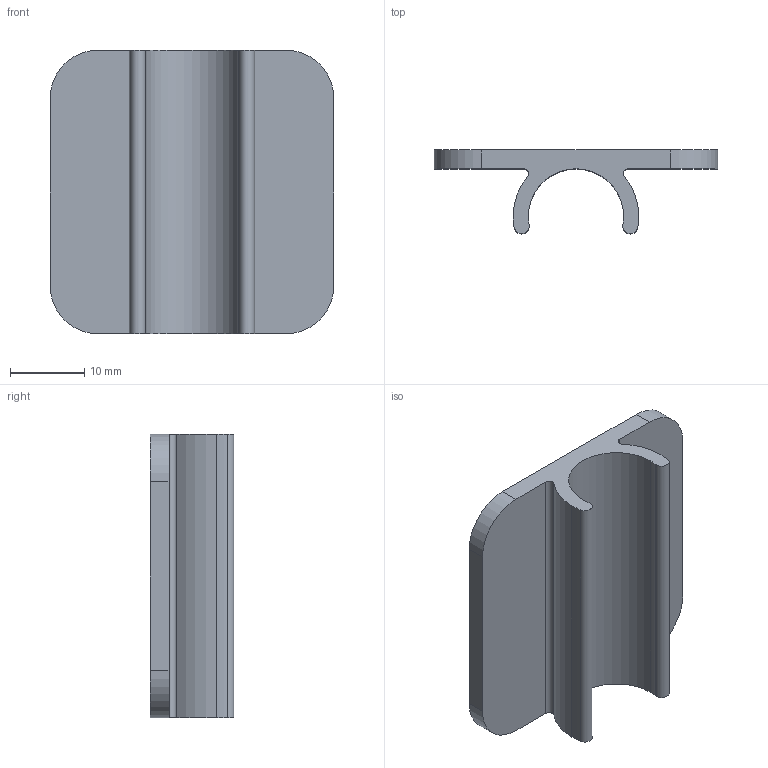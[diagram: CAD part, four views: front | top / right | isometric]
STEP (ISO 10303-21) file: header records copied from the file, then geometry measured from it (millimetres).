
FILE_DESCRIPTION (( 'STEP AP214' ), '1' );
FILE_NAME ('DRP-002-0102-00.STEP', '2010-08-12T16:04:20', ( '' ), ( '' ), 'SwSTEP 2.0', 'SolidWorks 2010', '' );
FILE_SCHEMA (( 'AUTOMOTIVE_DESIGN' ));
Length unit declared in the file: inch
Products named in the file (1): DRP-002-0102-00
Bounding box: 38.1 x 11.26 x 38.1 mm (x, y, z)
Volume: 5182.6 mm3; surface area: 4504.6 mm2
Topology: 1 solids, 1 shells, 23 faces, 63 edges, 42 vertices
Faces by surface type: cylinder 16, plane 7
Entity records: 789 total; most frequent: DIRECTION 143, CARTESIAN_POINT 129, ORIENTED_EDGE 126, EDGE_CURVE 63, AXIS2_PLACEMENT_3D 56, VERTEX_POINT 42, CIRCLE 32, LINE 31
